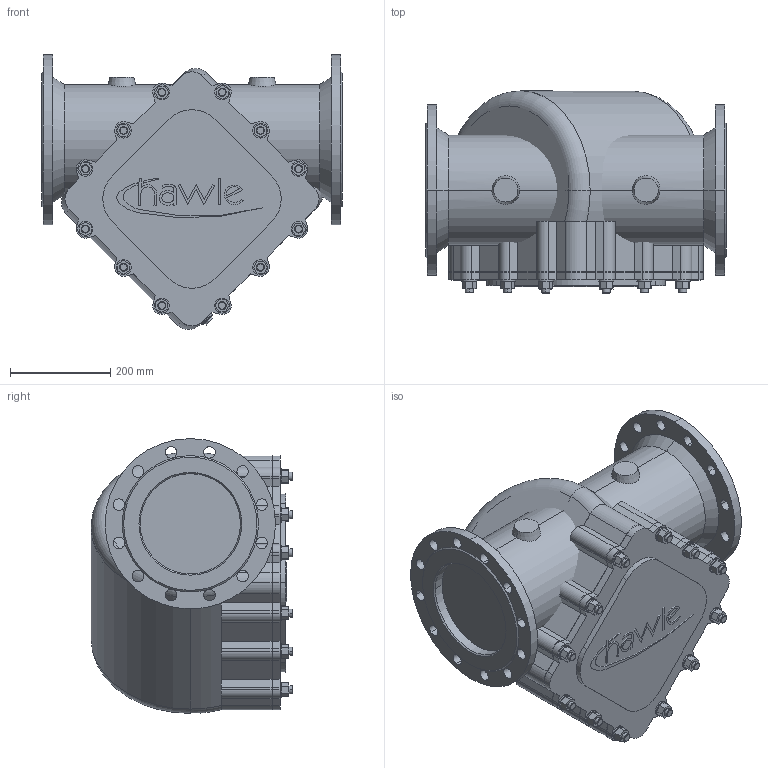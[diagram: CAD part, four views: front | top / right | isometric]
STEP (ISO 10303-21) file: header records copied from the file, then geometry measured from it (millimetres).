
FILE_DESCRIPTION(('STEP AP214'),'1');
FILE_NAME('S:/EK/USER/CAT6/3DHomepage_27-04-2012/neu_22-02-2013/9911/9911_PN16_DN200.STP','2013-02-26T13:26:57',(' '),(' '),'Spatial InterOp 3D',' ',' ');
FILE_SCHEMA(('automotive_design'));
Length unit declared in the file: millimetre
Products named in the file (73): 3D-Objekt
Bounding box: 600 x 402.7 x 548.4 mm (x, y, z)
Volume: 97296634.8 mm3; surface area: 3651761.4 mm2
Topology: 73 solids, 73 shells, 623 faces, 1418 edges, 942 vertices
Faces by surface type: plane 350, cylinder 219, cone 42, torus 12
Entity records: 25165 total; most frequent: CARTESIAN_POINT 3838, DIRECTION 3334, ORIENTED_EDGE 2836, EDGE_CURVE 1418, AXIS2_PLACEMENT_3D 1234, VERTEX_POINT 942, LINE 866, VECTOR 866
